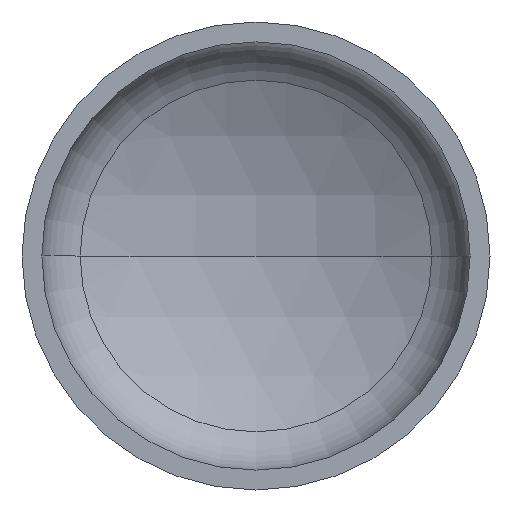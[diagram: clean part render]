
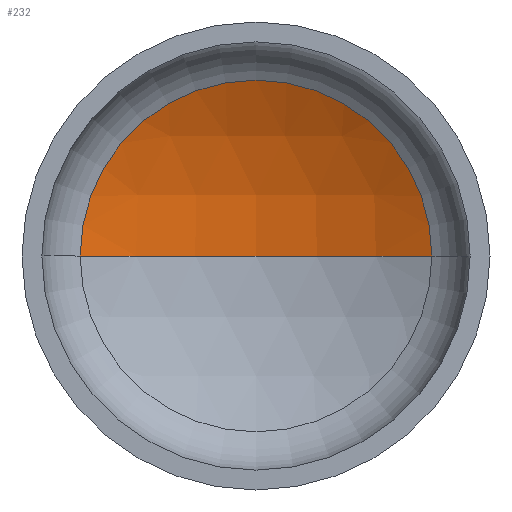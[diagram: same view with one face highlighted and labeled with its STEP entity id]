
A CAD part, front view. The second image highlights one B-rep face of the part: STEP entity #232.
In plain terms, the highlighted spherical face has radius 1920 mm.
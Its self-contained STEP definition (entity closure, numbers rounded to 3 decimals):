
#17 = DIRECTION ( 'NONE',  ( 1., 0., 0. ) ) ;
#20 = DIRECTION ( 'NONE',  ( 0., 0., 1. ) ) ;
#21 = AXIS2_PLACEMENT_3D ( 'NONE', #22, #174, #40 ) ;
#22 = CARTESIAN_POINT ( 'NONE',  ( 0., -1293.399, 0. ) ) ;
#25 = EDGE_LOOP ( 'NONE', ( #32, #138, #26 ) ) ;
#26 = ORIENTED_EDGE ( 'NONE', *, *, #83, .T. ) ;
#32 = ORIENTED_EDGE ( 'NONE', *, *, #87, .F. ) ;
#33 = AXIS2_PLACEMENT_3D ( 'NONE', #211, #20, #17 ) ;
#36 = AXIS2_PLACEMENT_3D ( 'NONE', #378, #239, #400 ) ;
#37 = AXIS2_PLACEMENT_3D ( 'NONE', #210, #205, #206 ) ;
#40 = DIRECTION ( 'NONE',  ( -1., 0., 0. ) ) ;
#51 = VERTEX_POINT ( 'NONE', #351 ) ;
#83 = EDGE_CURVE ( 'NONE', #51, #100, #372, .T. ) ;
#85 = EDGE_CURVE ( 'NONE', #127, #51, #92, .T. ) ;
#87 = EDGE_CURVE ( 'NONE', #127, #100, #308, .T. ) ;
#92 = CIRCLE ( 'NONE', #36, 1920. ) ;
#100 = VERTEX_POINT ( 'NONE', #397 ) ;
#127 = VERTEX_POINT ( 'NONE', #213 ) ;
#138 = ORIENTED_EDGE ( 'NONE', *, *, #85, .T. ) ;
#174 = DIRECTION ( 'NONE',  ( 0., 0., -1. ) ) ;
#205 = DIRECTION ( 'NONE',  ( 0., -1., 0. ) ) ;
#206 = DIRECTION ( 'NONE',  ( 1., 0., 0. ) ) ;
#210 = CARTESIAN_POINT ( 'NONE',  ( 0., 401.65, 0. ) ) ;
#211 = CARTESIAN_POINT ( 'NONE',  ( 0., -1293.399, 0. ) ) ;
#213 = CARTESIAN_POINT ( 'NONE',  ( 0., 626.601, 0. ) ) ;
#232 = ADVANCED_FACE ( 'NONE', ( #293 ), #243, .F. ) ;
#239 = DIRECTION ( 'NONE',  ( 0., 0., -1. ) ) ;
#243 = SPHERICAL_SURFACE ( 'NONE', #21, 1920. ) ;
#293 = FACE_OUTER_BOUND ( 'NONE', #25, .T. ) ;
#308 = CIRCLE ( 'NONE', #33, 1920. ) ;
#351 = CARTESIAN_POINT ( 'NONE',  ( 901.781, 401.65, 0. ) ) ;
#372 = CIRCLE ( 'NONE', #37, 901.781 ) ;
#378 = CARTESIAN_POINT ( 'NONE',  ( 0., -1293.399, 0. ) ) ;
#397 = CARTESIAN_POINT ( 'NONE',  ( -901.781, 401.65, 0. ) ) ;
#400 = DIRECTION ( 'NONE',  ( -1., 0., 0. ) ) ;
